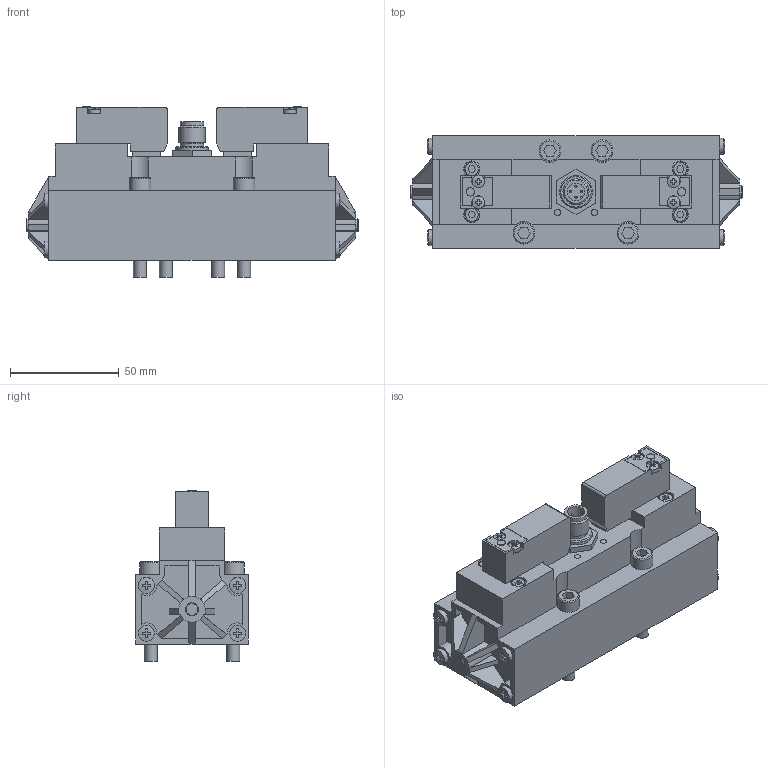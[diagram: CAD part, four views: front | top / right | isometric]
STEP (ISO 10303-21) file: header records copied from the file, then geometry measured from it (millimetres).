
FILE_DESCRIPTION((''),'2;1');
FILE_NAME('I:\Area Tecnica\Disegni\VARIE-3D\Componenti\ISO\ISO-M12\1112_53_32_3_5_12P.stp','2014-03-18T13:51:03',('valotma1'),(''),'Autodesk Inventor 2013','Autodesk Inventor 2013','');
FILE_SCHEMA(('AUTOMOTIVE_DESIGN { 1 0 10303 214 1 1 1 1 }'));
Length unit declared in the file: millimetre
Products named in the file (3): 1112_53_32_3_5_12P; 1112_53_32_3_5; M15P12P_
Assembly tree (3 placements, depth 2):
  1112_53_32_3_5_12P
    1112_53_32_3_5
    M15P12P_  x2
Bounding box: 153 x 52 x 78.7 mm (x, y, z)
Volume: 314703.9 mm3; surface area: 50049.5 mm2
Topology: 5 solids, 5 shells, 563 faces, 1434 edges, 941 vertices
Faces by surface type: plane 436, cylinder 94, cone 11, sphere 8, torus 8, bspline 6
Full cylindrical faces by diameter (mm): 1 x4, 2 x10, 3 x4, 3.1 x4, 3.9 x2, 5.8 x4, 6 x6, 7 x4, 7.4 x8, 7.5 x4, 10 x4, 10.7 x2, 12 x1, 15 x1
Entity records: 14542 total; most frequent: CARTESIAN_POINT 2833, ORIENTED_EDGE 2274, DIRECTION 2232, EDGE_CURVE 1137, VECTOR 864, LINE 864, VERTEX_POINT 787, AXIS2_PLACEMENT_3D 684
